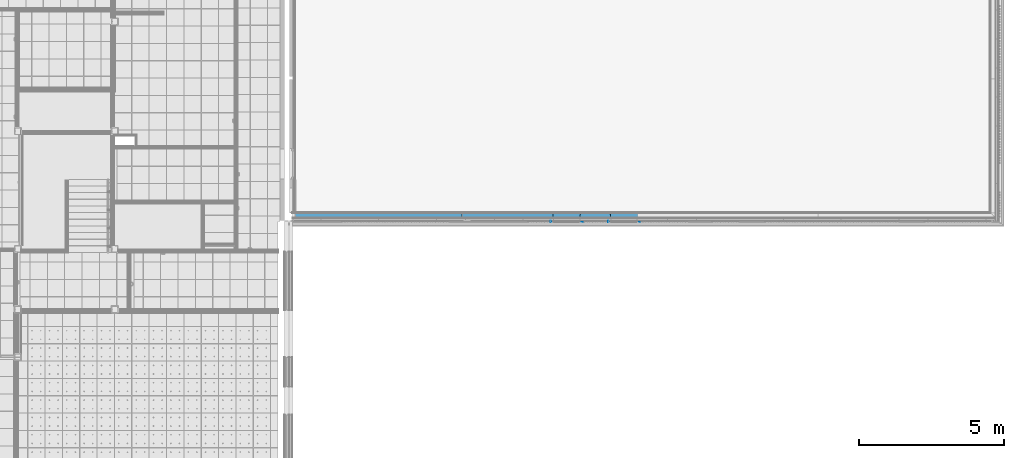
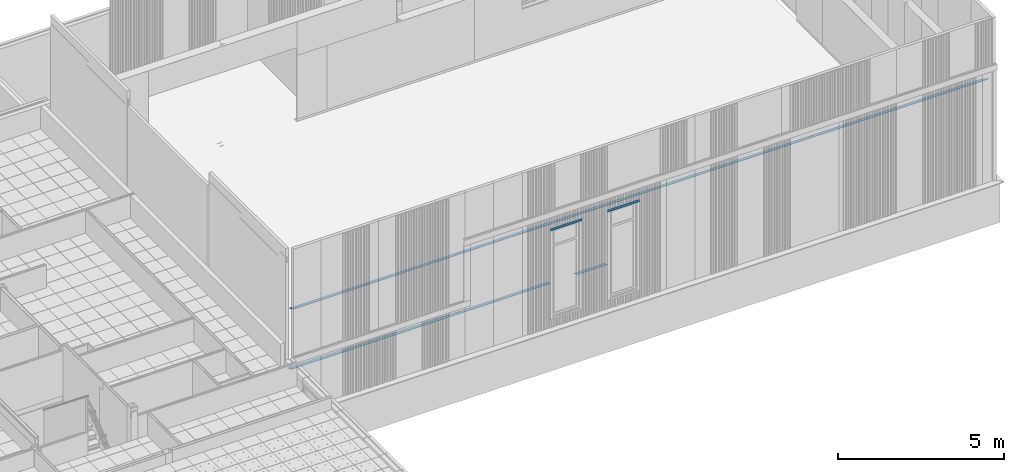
# One storey, part 38 of 338: 5 beams.
"""IFC2X3 building model written with IfcOpenShell, lengths in millimetres."""

from ifc_helpers import new_model, entity, si_unit, converted_unit, derived_unit, money_unit, direction, frame, origin_with_axes, place, context, subcontext, project, spatial, faceted_brep, material, type_object, element, save


model = new_model("IFC2X3")

# Units and contexts
model_context = context("Model", 3, precision=0.01, world=origin_with_axes(), true_north=direction((0.0, 1.0)))
plan_context = context("Plan", 3, precision=0.01, world=origin_with_axes(), true_north=direction((0.0, 1.0)))
body_context = subcontext(model_context, "Body", "Model", "MODEL_VIEW")
ifc_project = project(units=[si_unit("LENGTHUNIT", "METRE", prefix="MILLI"), si_unit("AREAUNIT", "SQUARE_METRE"), si_unit("VOLUMEUNIT", "CUBIC_METRE"), converted_unit("PLANEANGLEUNIT", "DEGREE", entity("IfcPlaneAngleMeasure", 0.0174532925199), si_unit("PLANEANGLEUNIT", "RADIAN"), dimensions=[0, 0, 0, 0, 0, 0, 0]), money_unit("EUR"), converted_unit("TIMEUNIT", "Year", entity("IfcTimeMeasure", 31556926.0), si_unit("TIMEUNIT", "SECOND"), dimensions=[0, 0, 1, 0, 0, 0, 0]), si_unit("MASSUNIT", "GRAM", prefix="KILO"), si_unit("THERMODYNAMICTEMPERATUREUNIT", "DEGREE_CELSIUS"), si_unit("LUMINOUSINTENSITYUNIT", "LUMEN"), si_unit("ENERGYUNIT", "JOULE", prefix="MEGA"), derived_unit("THERMALCONDUCTANCEUNIT", [(si_unit("POWERUNIT", "WATT"), 1), (si_unit("LENGTHUNIT", "METRE"), -1), (si_unit("THERMODYNAMICTEMPERATUREUNIT", "KELVIN"), -1)]), derived_unit("SPECIFICHEATCAPACITYUNIT", [(si_unit("ENERGYUNIT", "JOULE"), 1), (si_unit("MASSUNIT", "GRAM", prefix="KILO"), -1), (si_unit("THERMODYNAMICTEMPERATUREUNIT", "KELVIN"), -1)]), derived_unit("MASSDENSITYUNIT", [(si_unit("MASSUNIT", "GRAM", prefix="KILO"), 1), (si_unit("VOLUMEUNIT", "CUBIC_METRE"), -1)])], contexts=[model_context, plan_context])

# Site, building, storey
site_placement = place(None, origin_with_axes())
site = spatial("IfcSite", under=ifc_project, at=site_placement, Name="Fortuinstraat Woensdrecht", CompositionType="ELEMENT")
building_placement = place(site_placement, origin_with_axes())
building = spatial("IfcBuilding", under=site, at=building_placement, Name="IKC Fortuna", CompositionType="ELEMENT")
storey_placement = place(building_placement, origin_with_axes())
storey = spatial("IfcBuildingStorey", under=building, at=storey_placement, Name="00 begane grond", CompositionType="ELEMENT", Elevation=0.0)

# Beams
ifc_material_1 = material(Name="Metaal - Aluminium")
beam_type_1 = type_object("IfcBeamType", Name="41 Zetwerk SW 115 x 74", PredefinedType="BEAM")
beam_1_placement = place(storey_placement, frame((46033.4270571, 20910.2966283, 4540.00076674), z_axis=(0.0, 0.0, 1.0), x_axis=(0.0, -1.0, 0.0)))
element("IfcBeam", 1, at=beam_1_placement, inside=storey, type_object=beam_type_1, material=ifc_material_1, Name="28_Balk_UNP203", ObjectType="BEAM", context=body_context, shape_type="Brep", body=[
    faceted_brep([(55.0, 0.33036698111, 114.0), (20.6996787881, 0.33036698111, 114.0), (20.6996787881, 0.33036698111, 114.999233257), (55.955706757, 0.33036698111, 114.999233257), (55.955706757, 0.33036698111, 25.0), (20.6996787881, 0.33036698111, 25.0), (20.6996787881, 0.33036698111, 26.0), (55.0, 0.33036698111, 26.0), (55.0, 0.0, 114.0), (21.0208688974, 0.0, 114.0), (21.0208688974, 0.0, 115.0), (56.0, 0.0, 115.0), (55.955706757, 1100.0, 25.0), (55.955706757, 1100.0, 114.999233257), (56.0, 0.0, 25.0), (21.0208688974, 0.0, 25.0), (56.0, 1100.0, 25.0), (21.0208688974, 0.0, 26.0), (55.0, 0.0, 26.0), (56.0, 1100.0, 115.0)], [[[0, 1, 2, 3, 4, 5, 6, 7]], [[8, 9, 1, 0]], [[9, 10, 2, 1]], [[3, 2, 10, 11]], [[12, 4, 3, 13]], [[14, 15, 5, 4, 12, 16]], [[15, 17, 6, 5]], [[7, 6, 17, 18]], [[18, 8, 0, 7]], [[11, 10, 9, 8, 18, 17, 15, 14]], [[13, 3, 11, 19]], [[19, 16, 12, 13]], [[19, 11, 14, 16]]]),
    faceted_brep([(13.0, 0.0, 26.0), (17.6735743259, 0.0, 26.0), (17.3523838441, 0.33036698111, 26.0), (13.0, 0.33036698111, 26.0), (13.0, 0.0, 25.0), (17.6735743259, 0.0, 25.0), (17.3523838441, 0.33036698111, 25.0), (13.0, 0.33036698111, 25.0)], [[[0, 1, 2, 3]], [[4, 5, 1, 0]], [[5, 6, 2, 1]], [[3, 2, 6, 7]], [[7, 4, 0, 3]], [[7, 6, 5, 4]]]),
    faceted_brep([(15.0, 0.0, 115.0), (17.6735743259, 0.0, 115.0), (17.3523838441, 0.33036698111, 114.999233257), (15.0, 0.33036698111, 114.999233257), (15.0, 0.0, 114.0), (17.6735743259, 0.0, 114.0), (17.3523838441, 0.33036698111, 114.0), (15.0, 0.33036698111, 114.0)], [[[0, 1, 2, 3]], [[4, 5, 1, 0]], [[5, 6, 2, 1]], [[3, 2, 6, 7]], [[4, 0, 3, 7]], [[7, 6, 5, 4]]]),
])
beam_2_placement = place(storey_placement, frame((44048.4613816, 20910.2966283, 4540.00076674), z_axis=(0.0, 0.0, 1.0), x_axis=(0.0, -1.0, 0.0)))
element("IfcBeam", 2, at=beam_2_placement, inside=storey, type_object=beam_type_1, material=ifc_material_1, Name="28_Balk_UNP203", ObjectType="BEAM", context=body_context, shape_type="Brep", body=[
    faceted_brep([(55.0, 0.296001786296, 114.0), (29.1198095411, 0.296001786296, 114.0), (29.1198095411, 0.296001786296, 115.0), (55.955706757, 0.296001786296, 115.0), (55.955706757, 0.296001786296, 25.0), (29.1198095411, 0.296001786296, 25.0), (29.1198095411, 0.296001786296, 26.0), (55.0, 0.296001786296, 26.0), (55.0, 0.0, 114.0), (28.832029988, 0.0, 114.0), (28.832029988, 0.0, 115.0), (56.0, 0.0, 115.0), (56.0, 1098.96567557, 115.0), (55.955706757, 1098.96567557, 115.0), (55.955706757, 1098.96567557, 25.0), (56.0, 0.0, 25.0), (28.832029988, 0.0, 25.0), (56.0, 1098.96567557, 25.0), (28.832029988, 0.0, 26.0), (55.0, 0.0, 26.0)], [[[0, 1, 2, 3, 4, 5, 6, 7]], [[8, 9, 1, 0]], [[9, 10, 2, 1]], [[3, 2, 10, 11, 12, 13]], [[3, 13, 14, 4]], [[15, 16, 5, 4, 14, 17]], [[16, 18, 6, 5]], [[7, 6, 18, 19]], [[0, 7, 19, 8]], [[11, 10, 9, 8, 19, 18, 16, 15]], [[15, 17, 12, 11]], [[14, 13, 12, 17]]]),
    faceted_brep([(13.0, 0.0, 26.0), (27.1583638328, 0.0, 26.0), (27.4461433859, 0.296001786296, 26.0), (13.0, 0.296001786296, 26.0), (13.0, 0.0, 25.0), (27.1583638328, 0.0, 25.0), (27.4461433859, 0.296001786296, 25.0), (13.0, 0.296001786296, 25.0)], [[[0, 1, 2, 3]], [[4, 5, 1, 0]], [[5, 6, 2, 1]], [[3, 2, 6, 7]], [[0, 3, 7, 4]], [[7, 6, 5, 4]]]),
    faceted_brep([(15.0, 0.0, 115.0), (27.1583638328, 0.0, 115.0), (27.4461433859, 0.296001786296, 115.0), (15.0, 0.296001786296, 115.0), (15.0, 0.0, 114.0), (27.1583638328, 0.0, 114.0), (27.4461433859, 0.296001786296, 114.0), (15.0, 0.296001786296, 114.0)], [[[0, 1, 2, 3]], [[4, 5, 1, 0]], [[5, 6, 2, 1]], [[3, 2, 6, 7]], [[3, 7, 4, 0]], [[7, 6, 5, 4]]]),
])
ifc_material_2 = material(Name="Hout - Multiplex")
beam_type_2 = type_object("IfcBeamType", Name="Hout - Multiplex 233 x 12", PredefinedType="BEAM")
beam_3_placement = place(storey_placement, frame((44139.0341874, 20997.3424972, 2516.10771999), z_axis=(0.0, 0.0, 1.0), x_axis=(0.0, 1.0, 0.0)))
element("IfcBeam", 3, at=beam_3_placement, inside=storey, type_object=beam_type_2, material=ifc_material_2, Name="28_Balk_UNP203", ObjectType="BEAM", context=body_context, shape_type="Brep", body=[
    faceted_brep([(105.004811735, 9025.03437152, -38.2186259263), (160.454131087, 9025.03437152, -58.4005276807), (160.454131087, 8969.58505217, -58.4005276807), (140.090464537, 9025.03437152, -38.2186259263), (160.454131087, 9025.03437152, -45.630394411), (160.454131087, 9004.67070497, -45.630394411)], [[[0, 1, 2]], [[3, 4, 1, 0]], [[4, 5, 2, 1]], [[0, 2, 5, 3]], [[3, 5, 4]]]),
    faceted_brep([(160.454131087, 3173.60713029, -45.630394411), (160.454131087, 3245.60713029, -45.630394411), (169.954131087, 3245.60713029, -49.0881116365), (169.954131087, 3065.60713029, -49.0881116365), (160.454131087, 3065.60713029, -45.630394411), (160.454131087, 3137.60713029, -45.630394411), (158.444512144, 3145.10713029, -44.8989529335), (152.954131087, 3150.59751135, -42.900617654), (145.454131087, 3152.60713029, -40.170840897), (23.454131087, 3152.60713029, 4.23352768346), (15.954131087, 3150.59751135, 6.96330444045), (10.4637500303, 3145.10713029, 8.9616397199), (8.45413108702, 3137.60713029, 9.69308119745), (8.45413108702, 3065.60713029, 9.69308119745), (4.10424171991, 3065.60713029, 11.2763114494), (4.10424171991, 59.8343772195, 11.2763114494), (5.60725799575, 59.2467129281, 10.7292582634), (7.19985242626, 55.9719867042, 10.1496012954), (10.3398588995, 16.7742220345, 9.00673240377), (13.5250477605, 10.2247695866, 7.84741846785), (20.3079270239, 7.5727318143, 5.37865231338), (117.60033515, 7.5727318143, -30.0328882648), (124.383214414, 10.2247695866, -32.5016544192), (127.568403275, 16.7742220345, -33.6609683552), (130.708409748, 55.9719867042, -34.8038372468), (132.301004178, 59.2467129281, -35.3834942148), (135.69244381, 60.5727318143, -36.617877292), (138.954131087, 60.5727318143, -37.8050343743), (138.954131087, 0.572731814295, -37.8050343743), (4.10424171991, 0.572731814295, 11.2763114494), (4.10424171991, 0.0, 11.2763114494), (222.605421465, 0.0, -68.2516141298), (222.605421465, 8908.91275666, -68.2516141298), (221.299436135, 8908.73974712, -67.7762743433), (169.954131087, 8960.08505217, -49.0881116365), (169.954131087, 8959.60713029, -49.0881116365), (160.454131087, 8959.60713029, -45.630394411), (160.454131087, 8969.58505217, -45.630394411), (108.536321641, 9021.50286162, -26.7338571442), (135.194390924, 9025.03437152, -36.4366008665), (8.45413108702, 9025.03437152, 9.69308119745), (8.45413108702, 8959.60713029, 9.69308119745), (4.10424171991, 8959.60713029, 11.2763114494), (4.10424171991, 3245.60713029, 11.2763114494), (8.45413108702, 3245.60713029, 9.69308119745), (8.45413108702, 3173.60713029, 9.69308119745), (10.4637500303, 3166.10713029, 8.9616397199), (15.954131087, 3160.61674924, 6.96330444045), (23.454131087, 3158.60713029, 4.23352768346), (145.454131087, 3158.60713029, -40.170840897), (152.954131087, 3160.61674924, -42.900617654), (158.444512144, 3166.10713029, -44.8989529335), (160.454131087, 3245.60713029, -58.4005276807), (160.454131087, 3173.60713029, -58.4005276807), (169.954131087, 3245.60713029, -61.8582449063), (169.954131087, 3065.60713029, -61.8582449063), (160.454131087, 3065.60713029, -58.4005276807), (160.454131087, 3137.60713029, -58.4005276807), (158.444512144, 3145.10713029, -57.6690862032), (152.954131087, 3150.59751135, -55.6707509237), (145.454131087, 3152.60713029, -52.9409741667), (23.454131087, 3152.60713029, -8.53660558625), (15.954131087, 3150.59751135, -5.80682882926), (10.4637500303, 3145.10713029, -3.80849354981), (8.45413108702, 3137.60713029, -3.07705207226), (8.45413108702, 3065.60713029, -3.07705207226), (0.0, 3065.60713029, 0.0), (0.0, 60.5727318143, 0.0), (2.21581836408, 60.5727318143, 6.08791092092), (5.60725799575, 59.2467129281, -2.0408750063), (2.21581836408, 60.5727318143, -0.806491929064), (7.19985242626, 55.9719867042, -2.62053197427), (10.3398588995, 16.7742220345, -3.76340086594), (13.5250477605, 10.2247695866, -4.92271480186), (20.3079270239, 7.5727318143, -7.39148095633), (117.60033515, 7.5727318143, -42.8030215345), (124.383214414, 10.2247695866, -45.2717876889), (127.568403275, 16.7742220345, -46.4311016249), (130.708409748, 55.9719867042, -47.5739705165), (132.301004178, 59.2467129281, -48.1536274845), (135.69244381, 60.5727318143, -49.3880105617), (138.954131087, 60.5727318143, -50.575167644), (138.954131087, 0.572731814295, -50.575167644), (0.0, 0.572731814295, 0.0), (0.0, 0.0, 0.0), (218.501179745, 0.0, -79.5279255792), (222.605421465, 9025.03437152, -68.2516141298), (222.605421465, 8942.51941459, -68.2516141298), (218.674189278, 8912.84398884, -79.0525857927), (218.501179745, 9025.03437152, -79.5279255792), (217.195194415, 8912.84398884, -79.0525857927), (186.213783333, 8908.73974712, -67.7762743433), (160.454131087, 8959.60713029, -49.2620609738), (169.954131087, 8959.60713029, -49.2620609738), (73.4506688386, 9021.50286162, -26.7338571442), (100.108738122, 9025.03437152, -36.4366008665), (8.45413108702, 9025.03437152, -3.07705207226), (8.45413108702, 8959.60713029, -3.07705207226), (0.0, 8959.60713029, 0.0), (0.0, 3245.60713029, 0.0), (8.45413108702, 3245.60713029, -3.07705207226), (8.45413108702, 3173.60713029, -3.07705207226), (10.4637500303, 3166.10713029, -3.80849354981), (15.954131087, 3160.61674924, -5.80682882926), (23.454131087, 3158.60713029, -8.53660558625), (145.454131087, 3158.60713029, -52.9409741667), (152.954131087, 3160.61674924, -55.6707509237), (158.444512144, 3166.10713029, -57.6690862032), (169.954131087, 8960.08505217, -61.8582449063), (169.954131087, 9025.03437152, -61.8582449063), (169.954131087, 9025.03437152, -49.0881116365), (169.954131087, 8995.17070497, -49.0881116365)], [[[0, 1, 2, 3, 4, 5, 6, 7, 8, 9, 10, 11, 12, 13, 14, 15, 16, 17, 18, 19, 20, 21, 22, 23, 24, 25, 26, 27, 28, 29, 30, 31, 32, 33, 34, 35, 36, 37, 38, 39, 40, 41, 42, 43, 44, 45, 46, 47, 48, 49, 50, 51]], [[52, 1, 0, 53]], [[54, 2, 1, 52]], [[55, 3, 2, 54]], [[56, 4, 3, 55]], [[57, 5, 4, 56]], [[58, 6, 5, 57]], [[59, 7, 6, 58]], [[60, 8, 7, 59]], [[61, 9, 8, 60]], [[62, 10, 9, 61]], [[63, 11, 10, 62]], [[64, 12, 11, 63]], [[65, 13, 12, 64]], [[66, 14, 13, 65]], [[15, 14, 66, 67, 68]], [[69, 16, 15, 68, 70]], [[71, 17, 16, 69]], [[72, 18, 17, 71]], [[73, 19, 18, 72]], [[74, 20, 19, 73]], [[75, 21, 20, 74]], [[76, 22, 21, 75]], [[77, 23, 22, 76]], [[78, 24, 23, 77]], [[79, 25, 24, 78]], [[80, 26, 25, 79]], [[81, 27, 26, 80]], [[82, 28, 27, 81]], [[83, 29, 28, 82]], [[30, 29, 83, 84]], [[30, 84, 85, 31]], [[86, 87, 88, 32, 31, 85, 89]], [[90, 91, 33, 32, 88]], [[92, 93, 34, 33, 91, 94, 38, 37]], [[93, 35, 34]], [[92, 36, 35, 93]], [[92, 37, 36]], [[94, 95, 39, 38]], [[95, 96, 40, 39]], [[97, 41, 40, 96]], [[98, 42, 41, 97]], [[98, 99, 43, 42]], [[100, 44, 43, 99]], [[101, 45, 44, 100]], [[102, 46, 45, 101]], [[103, 47, 46, 102]], [[104, 48, 47, 103]], [[105, 49, 48, 104]], [[106, 50, 49, 105]], [[107, 51, 50, 106]], [[53, 0, 51, 107]], [[101, 100, 99, 98, 97, 96, 95, 94, 91, 90, 108, 109, 89, 85, 84, 83, 82, 81, 80, 79, 78, 77, 76, 75, 74, 73, 72, 71, 69, 70, 67, 66, 65, 64, 63, 62, 61, 60, 59, 58, 57, 56, 55, 54, 52, 53, 107, 106, 105, 104, 103, 102]], [[70, 68, 67]], [[86, 110, 111, 87]], [[87, 111, 108, 90, 88]], [[89, 109, 110, 86]], [[110, 109, 108, 111]]]),
])
beam_4_placement = place(storey_placement, frame((46123.4270571, 20996.2966282, 2516.10771999), z_axis=(0.0, 0.0, 1.0), x_axis=(0.0, 1.0, 0.0)))
element("IfcBeam", 4, at=beam_4_placement, inside=storey, type_object=beam_type_2, material=ifc_material_2, Name="28_Balk_UNP203", ObjectType="BEAM", context=body_context, shape_type="Brep", body=[
    faceted_brep([(8.24572133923, 1009.60074511, 9.76893614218), (6.65312690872, 1006.32601889, 10.3485931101), (4.10424171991, 1005.32943034, 11.2763114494), (4.10424171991, 59.6705696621, 11.2763114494), (6.65312690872, 58.6739811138, 10.3485931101), (8.24572133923, 55.3992548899, 9.76893614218), (11.3857278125, 16.2014902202, 8.62606725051), (14.5709166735, 9.65203777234, 7.46675331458), (21.3537959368, 7.00000000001, 4.99798716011), (118.646204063, 7.00000000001, -30.413553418), (125.429083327, 9.65203777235, -32.8823195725), (128.614272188, 16.2014902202, -34.0416335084), (131.754278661, 55.3992548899, -35.1845024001), (133.346873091, 58.6739811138, -35.7641593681), (136.738312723, 60.0, -36.9985424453), (140.0, 60.0, -38.1856995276), (140.0, 0.0, -38.1856995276), (222.605421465, 0.0, -68.2516141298), (222.605421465, 1065.0, -68.2516141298), (140.0, 1065.0, -38.1856995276), (140.0, 1005.0, -38.1856995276), (136.738312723, 1005.0, -36.9985424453), (133.346873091, 1006.32601889, -35.7641593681), (131.754278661, 1009.60074511, -35.1845024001), (128.614272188, 1048.79850978, -34.0416335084), (125.429083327, 1055.34796223, -32.8823195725), (118.646204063, 1058.0, -30.413553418), (21.3537959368, 1058.0, 4.99798716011), (14.5709166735, 1055.34796223, 7.46675331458), (11.3857278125, 1048.79850978, 8.62606725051), (6.65312690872, 1006.32601889, -2.42154015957), (8.24572133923, 1009.60074511, -3.00119712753), (3.26168727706, 1005.0, -1.18715708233), (3.26168727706, 1005.0, 8.96141214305), (0.0, 1005.0, 0.0), (0.0, 60.0, 0.0), (3.26168727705, 60.0, 8.96141214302), (6.65312690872, 58.6739811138, -2.42154015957), (3.26168727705, 60.0, -1.18715708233), (8.24572133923, 55.3992548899, -3.00119712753), (11.3857278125, 16.2014902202, -4.1440660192), (14.5709166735, 9.65203777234, -5.30337995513), (21.3537959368, 7.00000000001, -7.7721461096), (118.646204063, 7.00000000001, -43.1836866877), (125.429083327, 9.65203777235, -45.6524528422), (128.614272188, 16.2014902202, -46.8117667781), (131.754278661, 55.3992548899, -47.9546356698), (133.346873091, 58.6739811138, -48.5342926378), (136.738312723, 60.0, -49.768675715), (140.0, 60.0, -50.9558327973), (140.0, 0.0, -50.9558327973), (218.501179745, 0.0, -79.5279255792), (218.501179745, 1065.0, -79.5279255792), (140.0, 1065.0, -50.9558327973), (140.0, 1005.0, -50.9558327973), (136.738312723, 1005.0, -49.768675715), (133.346873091, 1006.32601889, -48.5342926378), (131.754278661, 1009.60074511, -47.9546356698), (128.614272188, 1048.79850978, -46.8117667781), (125.429083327, 1055.34796223, -45.6524528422), (118.646204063, 1058.0, -43.1836866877), (21.3537959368, 1058.0, -7.7721461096), (14.5709166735, 1055.34796223, -5.30337995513), (11.3857278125, 1048.79850978, -4.1440660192)], [[[0, 1, 2, 3, 4, 5, 6, 7, 8, 9, 10, 11, 12, 13, 14, 15, 16, 17, 18, 19, 20, 21, 22, 23, 24, 25, 26, 27, 28, 29]], [[30, 1, 0, 31]], [[32, 33, 2, 1, 30]], [[2, 33, 34, 35, 36, 3]], [[37, 4, 3, 36, 38]], [[39, 5, 4, 37]], [[40, 6, 5, 39]], [[41, 7, 6, 40]], [[42, 8, 7, 41]], [[43, 9, 8, 42]], [[44, 10, 9, 43]], [[45, 11, 10, 44]], [[46, 12, 11, 45]], [[47, 13, 12, 46]], [[48, 14, 13, 47]], [[49, 15, 14, 48]], [[49, 50, 16, 15]], [[17, 16, 50, 51]], [[18, 17, 51, 52]], [[52, 53, 19, 18]], [[54, 20, 19, 53]], [[55, 21, 20, 54]], [[56, 22, 21, 55]], [[57, 23, 22, 56]], [[58, 24, 23, 57]], [[59, 25, 24, 58]], [[60, 26, 25, 59]], [[61, 27, 26, 60]], [[62, 28, 27, 61]], [[63, 29, 28, 62]], [[31, 0, 29, 63]], [[55, 54, 53, 52, 51, 50, 49, 48, 47, 46, 45, 44, 43, 42, 41, 40, 39, 37, 38, 35, 34, 32, 30, 31, 63, 62, 61, 60, 59, 58, 57, 56]], [[32, 34, 33]], [[38, 36, 35]]]),
])
beam_type_3 = type_object("IfcBeamType", Name="Hout - Multiplex 220 x 12", PredefinedType="BEAM")
beam_5_placement = place(storey_placement, frame((35179.4270571, 20996.2928806, 4701.0), z_axis=(0.0, 0.0, 1.0), x_axis=(0.0, -1.0, 0.0)))
element("IfcBeam", 5, at=beam_5_placement, inside=storey, type_object=beam_type_3, material=ifc_material_2, Name="28_Balk_UNP203", ObjectType="BEAM", context=body_context, shape_type="Brep", body=[
    faceted_brep([(-161.503747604, 24092.5, -46.0124235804), (-93.0037476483, 24161.0, -21.0804625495), (-93.0037476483, 24161.0, -33.8505958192), (-161.503747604, 24092.5, -58.7825568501), (-11.5133665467, 24153.5, 8.57961055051), (-17.0037476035, 24158.9903811, 6.58127527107), (-24.5037476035, 24161.0, 3.85149851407), (-161.503747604, 24074.0, -46.0124235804), (-171.003747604, 24074.0, -49.4701408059), (-171.003747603, 24083.0, -49.4701408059), (-210.836618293, 24043.1671294, -63.9681200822), (-210.836618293, 0.0, -63.9681200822), (-4.10424171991, 0.0, 11.2763114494), (-4.10424171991, 5714.0, 11.2763114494), (-9.50374760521, 5714.0, 9.31105202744), (-9.5037476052, 5786.0, 9.31105202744), (-11.5133665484, 5793.5, 8.57961054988), (-17.0037476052, 5798.99038106, 6.58127527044), (-24.5037476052, 5801.0, 3.85149851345), (-146.503747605, 5801.0, -40.552870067), (-154.003747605, 5798.99038106, -43.282646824), (-159.494128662, 5793.5, -45.2809821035), (-161.503747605, 5786.0, -46.012423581), (-161.503747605, 5714.0, -46.012423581), (-171.003747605, 5714.0, -49.4701408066), (-171.003747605, 5894.0, -49.4701408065), (-161.503747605, 5894.0, -46.012423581), (-161.503747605, 5822.0, -46.012423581), (-159.494128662, 5814.5, -45.2809821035), (-154.003747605, 5809.00961894, -43.282646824), (-146.503747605, 5807.0, -40.552870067), (-24.5037476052, 5807.0, 3.85149851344), (-17.0037476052, 5809.00961894, 6.58127527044), (-11.5133665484, 5814.5, 8.57961054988), (-9.5037476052, 5822.0, 9.31105202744), (-9.5037476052, 5894.0, 9.31105202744), (-4.10424171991, 5894.0, 11.2763114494), (-4.10424171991, 11864.0, 11.2763114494), (-9.50374760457, 11864.0, 9.31105202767), (-9.50374760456, 11936.0, 9.31105202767), (-11.5133665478, 11943.5, 8.57961055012), (-17.0037476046, 11948.9903811, 6.58127527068), (-24.5037476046, 11951.0, 3.85149851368), (-146.503747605, 11951.0, -40.5528700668), (-154.003747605, 11948.9903811, -43.2826468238), (-159.494128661, 11943.5, -45.2809821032), (-161.503747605, 11936.0, -46.0124235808), (-161.503747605, 11864.0, -46.0124235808), (-171.003747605, 11864.0, -49.4701408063), (-171.003747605, 12044.0, -49.4701408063), (-161.503747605, 12044.0, -46.0124235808), (-161.503747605, 11972.0, -46.0124235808), (-159.494128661, 11964.5, -45.2809821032), (-154.003747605, 11959.0096189, -43.2826468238), (-146.503747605, 11957.0, -40.5528700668), (-24.5037476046, 11957.0, 3.85149851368), (-17.0037476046, 11959.0096189, 6.58127527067), (-11.5133665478, 11964.5, 8.57961055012), (-9.50374760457, 11972.0, 9.31105202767), (-9.50374760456, 12044.0, 9.31105202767), (-4.10424171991, 12044.0, 11.2763114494), (-4.10424171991, 18014.0, 11.2763114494), (-9.50374760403, 18014.0, 9.31105202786), (-9.50374760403, 18086.0, 9.31105202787), (-11.5133665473, 18093.5, 8.57961055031), (-17.003747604, 18098.9903811, 6.58127527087), (-24.503747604, 18101.0, 3.85149851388), (-146.503747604, 18101.0, -40.5528700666), (-154.003747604, 18098.9903811, -43.2826468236), (-159.494128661, 18093.5, -45.280982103), (-161.503747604, 18086.0, -46.0124235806), (-161.503747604, 18014.0, -46.0124235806), (-171.003747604, 18014.0, -49.4701408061), (-171.003747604, 18194.0, -49.4701408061), (-161.503747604, 18194.0, -46.0124235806), (-161.503747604, 18122.0, -46.0124235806), (-159.494128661, 18114.5, -45.280982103), (-154.003747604, 18109.0096189, -43.2826468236), (-146.503747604, 18107.0, -40.5528700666), (-24.503747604, 18107.0, 3.85149851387), (-17.003747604, 18109.0096189, 6.58127527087), (-11.5133665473, 18114.5, 8.57961055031), (-9.50374760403, 18122.0, 9.31105202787), (-9.50374760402, 18194.0, 9.31105202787), (-4.10424171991, 18194.0, 11.2763114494), (-4.10424171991, 19624.8265316, 11.2763114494), (-6.00374762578, 19625.4712386, 10.5849478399), (-6.00374762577, 19707.5108863, 10.5849478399), (-4.10424171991, 19706.8661793, 11.2763114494), (-4.10424171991, 22561.1338208, 11.2763114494), (-6.00374762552, 22560.4891138, 10.58494784), (-6.00374762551, 22642.5287614, 10.58494784), (-4.10424171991, 22643.1734684, 11.2763114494), (-4.10424171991, 24074.0, 11.2763114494), (-9.5037476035, 24074.0, 9.31105202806), (-9.50374760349, 24146.0, 9.31105202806), (-24.5037476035, 24161.0, -8.91727073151), (-9.50374760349, 24146.0, -3.45771721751), (-9.5037476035, 24074.0, -3.45771721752), (-0.00374760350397, 24074.0, 0.0), (-0.00374762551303, 22632.6581379, 0.0), (-6.00374762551, 22630.6204195, -2.18518542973), (-6.00374762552, 22548.5807718, -2.18518542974), (-0.00374762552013, 22550.6184902, 0.0), (-0.00374762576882, 19717.3815098, 0.0), (-6.00374762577, 19719.4192282, -2.18518542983), (-6.00374762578, 19637.3795805, -2.18518542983), (-0.00374762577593, 19635.3418622, 0.0), (-0.00374760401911, 18194.0, 0.0), (-9.50374760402, 18194.0, -3.45771721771), (-9.50374760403, 18122.0, -3.45771721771), (-11.5133665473, 18114.5, -4.18915869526), (-17.003747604, 18109.0096189, -6.18749397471), (-24.503747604, 18107.0, -8.9172707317), (-146.503747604, 18107.0, -53.3216393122), (-154.003747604, 18109.0096189, -56.0514160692), (-159.494128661, 18114.5, -58.0497513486), (-161.503747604, 18122.0, -58.7811928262), (-161.503747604, 18194.0, -58.7811928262), (-171.003747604, 18194.0, -62.2389100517), (-171.003747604, 18014.0, -62.2389100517), (-161.503747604, 18014.0, -58.7811928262), (-161.503747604, 18086.0, -58.7811928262), (-159.494128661, 18093.5, -58.0497513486), (-154.003747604, 18098.9903811, -56.0514160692), (-146.503747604, 18101.0, -53.3216393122), (-24.503747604, 18101.0, -8.9172707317), (-17.003747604, 18098.9903811, -6.1874939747), (-11.5133665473, 18093.5, -4.18915869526), (-9.50374760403, 18086.0, -3.45771721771), (-9.50374760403, 18014.0, -3.45771721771), (-0.00374760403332, 18014.0, 0.0), (-0.00374760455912, 12044.0, 0.0), (-9.50374760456, 12044.0, -3.4577172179), (-9.50374760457, 11972.0, -3.45771721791), (-11.5133665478, 11964.5, -4.18915869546), (-17.0037476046, 11959.0096189, -6.1874939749), (-24.5037476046, 11957.0, -8.9172707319), (-146.503747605, 11957.0, -53.3216393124), (-154.003747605, 11959.0096189, -56.0514160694), (-159.494128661, 11964.5, -58.0497513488), (-161.503747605, 11972.0, -58.7811928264), (-161.503747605, 12044.0, -58.7811928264), (-171.003747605, 12044.0, -62.2389100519), (-171.003747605, 11864.0, -62.2389100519), (-161.503747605, 11864.0, -58.7811928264), (-161.503747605, 11936.0, -58.7811928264), (-159.494128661, 11943.5, -58.0497513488), (-154.003747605, 11948.9903811, -56.0514160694), (-146.503747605, 11951.0, -53.3216393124), (-24.5037476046, 11951.0, -8.9172707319), (-17.0037476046, 11948.9903811, -6.1874939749), (-11.5133665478, 11943.5, -4.18915869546), (-9.50374760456, 11936.0, -3.4577172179), (-9.50374760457, 11864.0, -3.45771721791), (-0.00374760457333, 11864.0, 0.0), (-0.00374760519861, 5894.0, 0.0), (-9.5037476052, 5894.0, -3.45771721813), (-9.5037476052, 5822.0, -3.45771721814), (-11.5133665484, 5814.5, -4.18915869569), (-17.0037476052, 5809.00961894, -6.18749397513), (-24.5037476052, 5807.0, -8.91727073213), (-146.503747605, 5807.0, -53.3216393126), (-154.003747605, 5809.00961894, -56.0514160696), (-159.494128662, 5814.5, -58.049751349), (-161.503747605, 5822.0, -58.7811928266), (-161.503747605, 5894.0, -58.7811928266), (-171.003747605, 5894.0, -62.2389100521), (-171.003747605, 5714.0, -62.2389100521), (-161.503747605, 5714.0, -58.7811928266), (-161.503747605, 5786.0, -58.7811928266), (-159.494128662, 5793.5, -58.049751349), (-154.003747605, 5798.99038106, -56.0514160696), (-146.503747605, 5801.0, -53.3216393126), (-24.5037476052, 5801.0, -8.91727073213), (-17.0037476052, 5798.99038106, -6.18749397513), (-11.5133665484, 5793.5, -4.18915869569), (-9.5037476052, 5786.0, -3.45771721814), (-9.50374760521, 5714.0, -3.45771721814), (-0.00374760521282, 5714.0, 0.0), (0.0, 0.0, 0.0), (-206.732376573, 0.0, -75.2444315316), (-206.732376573, 24047.2713711, -75.2444315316), (-171.003747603, 24083.0, -62.2402740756), (-171.003747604, 24074.0, -62.2389100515), (-161.503747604, 24074.0, -58.781192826), (-17.0037476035, 24158.9903811, -6.18749397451), (-11.5133665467, 24153.5, -4.18915869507)], [[[0, 1, 2, 3]], [[4, 5, 6, 1, 0, 7, 8, 9, 10, 11, 12, 13, 14, 15, 16, 17, 18, 19, 20, 21, 22, 23, 24, 25, 26, 27, 28, 29, 30, 31, 32, 33, 34, 35, 36, 37, 38, 39, 40, 41, 42, 43, 44, 45, 46, 47, 48, 49, 50, 51, 52, 53, 54, 55, 56, 57, 58, 59, 60, 61, 62, 63, 64, 65, 66, 67, 68, 69, 70, 71, 72, 73, 74, 75, 76, 77, 78, 79, 80, 81, 82, 83, 84, 85, 86, 87, 88, 89, 90, 91, 92, 93, 94, 95]], [[96, 2, 1, 6]], [[97, 98, 99, 100, 101, 102, 103, 104, 105, 106, 107, 108, 109, 110, 111, 112, 113, 114, 115, 116, 117, 118, 119, 120, 121, 122, 123, 124, 125, 126, 127, 128, 129, 130, 131, 132, 133, 134, 135, 136, 137, 138, 139, 140, 141, 142, 143, 144, 145, 146, 147, 148, 149, 150, 151, 152, 153, 154, 155, 156, 157, 158, 159, 160, 161, 162, 163, 164, 165, 166, 167, 168, 169, 170, 171, 172, 173, 174, 175, 176, 177, 178, 179, 180, 181, 182, 183, 184, 185, 3, 2, 96, 186, 187]], [[185, 7, 0, 3]], [[186, 5, 4, 187]], [[96, 6, 5, 186]], [[184, 8, 7, 185]], [[184, 183, 9, 8]], [[10, 9, 183, 182]], [[182, 181, 11, 10]], [[11, 181, 180, 12]], [[179, 13, 12, 180]], [[14, 13, 179, 178]], [[15, 14, 178, 177]], [[16, 15, 177, 176]], [[17, 16, 176, 175]], [[18, 17, 175, 174]], [[19, 18, 174, 173]], [[20, 19, 173, 172]], [[21, 20, 172, 171]], [[22, 21, 171, 170]], [[23, 22, 170, 169]], [[24, 23, 169, 168]], [[25, 24, 168, 167]], [[26, 25, 167, 166]], [[27, 26, 166, 165]], [[28, 27, 165, 164]], [[29, 28, 164, 163]], [[30, 29, 163, 162]], [[31, 30, 162, 161]], [[32, 31, 161, 160]], [[33, 32, 160, 159]], [[34, 33, 159, 158]], [[35, 34, 158, 157]], [[36, 35, 157, 156]], [[37, 36, 156, 155]], [[37, 155, 154, 38]], [[38, 154, 153, 39]], [[39, 153, 152, 40]], [[40, 152, 151, 41]], [[41, 151, 150, 42]], [[42, 150, 149, 43]], [[43, 149, 148, 44]], [[44, 148, 147, 45]], [[45, 147, 146, 46]], [[46, 146, 145, 47]], [[47, 145, 144, 48]], [[48, 144, 143, 49]], [[49, 143, 142, 50]], [[50, 142, 141, 51]], [[51, 141, 140, 52]], [[52, 140, 139, 53]], [[53, 139, 138, 54]], [[54, 138, 137, 55]], [[55, 137, 136, 56]], [[56, 136, 135, 57]], [[57, 135, 134, 58]], [[58, 134, 133, 59]], [[59, 133, 132, 60]], [[60, 132, 131, 61]], [[131, 130, 62, 61]], [[130, 129, 63, 62]], [[129, 128, 64, 63]], [[128, 127, 65, 64]], [[127, 126, 66, 65]], [[126, 125, 67, 66]], [[125, 124, 68, 67]], [[124, 123, 69, 68]], [[123, 122, 70, 69]], [[122, 121, 71, 70]], [[121, 120, 72, 71]], [[120, 119, 73, 72]], [[119, 118, 74, 73]], [[118, 117, 75, 74]], [[117, 116, 76, 75]], [[116, 115, 77, 76]], [[115, 114, 78, 77]], [[114, 113, 79, 78]], [[113, 112, 80, 79]], [[112, 111, 81, 80]], [[111, 110, 82, 81]], [[110, 109, 83, 82]], [[109, 108, 84, 83]], [[107, 85, 84, 108]], [[86, 85, 107, 106]], [[87, 86, 106, 105]], [[88, 87, 105, 104]], [[104, 103, 89, 88]], [[102, 90, 89, 103]], [[101, 91, 90, 102]], [[101, 100, 92, 91]], [[100, 99, 93, 92]], [[98, 94, 93, 99]], [[97, 95, 94, 98]], [[187, 4, 95, 97]]]),
    faceted_brep([(-17.0037476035, 24169.0096189, 6.58127527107), (-11.5133665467, 24174.5, 8.57961055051), (-9.50374760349, 24182.0, 9.31105202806), (-9.50374760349, 24244.5, 9.31105202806), (-87.0037476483, 24167.0, -18.8966411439), (-24.5037476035, 24167.0, 3.85149851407), (-11.5133665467, 24174.5, -4.18915869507), (-17.0037476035, 24169.0096189, -6.18749397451), (-9.50374760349, 24182.0, -3.45771721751), (-9.50374760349, 24244.5, -3.45908124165), (-87.0037476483, 24167.0, -31.6667744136), (-24.5037476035, 24167.0, -8.91727073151)], [[[0, 1, 2, 3, 4, 5]], [[6, 1, 0, 7]], [[8, 2, 1, 6]], [[8, 9, 3, 2]], [[9, 10, 4, 3]], [[11, 5, 4, 10]], [[7, 0, 5, 11]], [[7, 11, 10, 9, 8, 6]]]),
])

save(model, "model.ifc")
